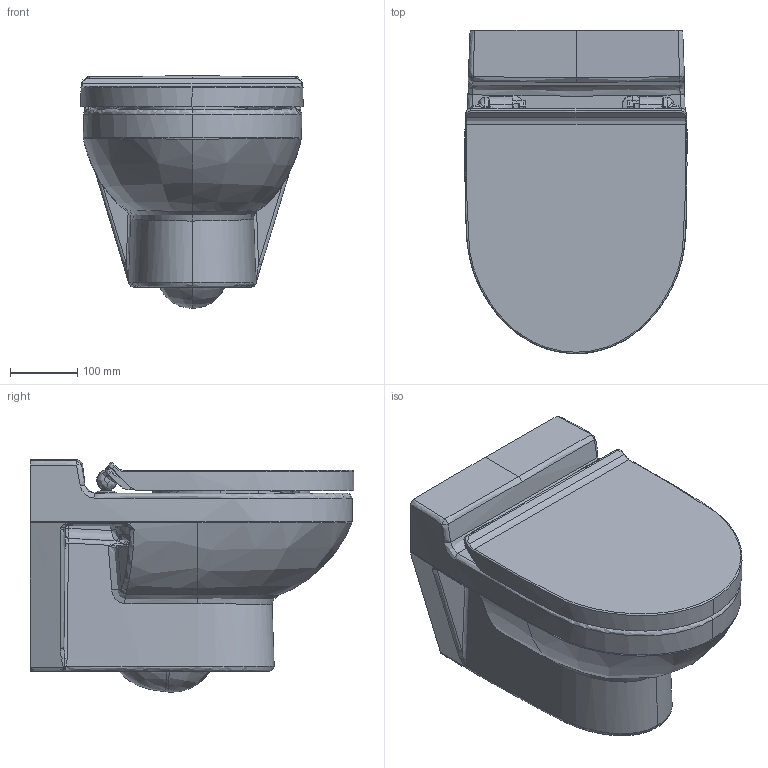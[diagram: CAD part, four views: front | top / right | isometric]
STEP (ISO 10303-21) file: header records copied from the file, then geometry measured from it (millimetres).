
FILE_DESCRIPTION(/* description */ (''),/* implementation_level */ '2;1');
FILE_NAME(/* name */ '257409',/* time_stamp */ '2019-02-19T13:48:39+01:00',/* author */ (''),/* organization */ (''),/* preprocessor_version */ 'ST-DEVELOPER v15',/* originating_system */ '',/* authorisation */ '');
FILE_SCHEMA (('AUTOMOTIVE_DESIGN'));
Products named in the file (1): Document
Bounding box: 331.44 x 482.38 x 346.42 mm (x, y, z)
Volume: 1387855.6 mm3; surface area: 1574332.9 mm2
Topology: 15 solids, 24 shells, 1766 faces, 4308 edges, 2520 vertices
Faces by surface type: bspline 1766
Entity records: 335241 total; most frequent: CARTESIAN_POINT 281367, B_SPLINE_CURVE_WITH_KNOTS 10993, ORIENTED_EDGE 8419, PCURVE 8419, DEFINITIONAL_REPRESENTATION 8419, SURFACE_CURVE 4243, EDGE_CURVE 4243, VERTEX_POINT 2523
